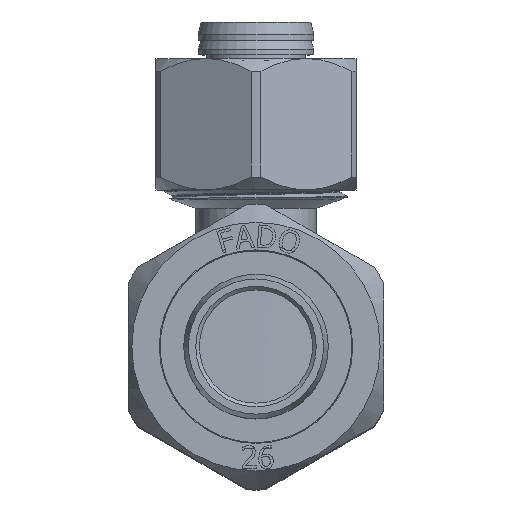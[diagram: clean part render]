
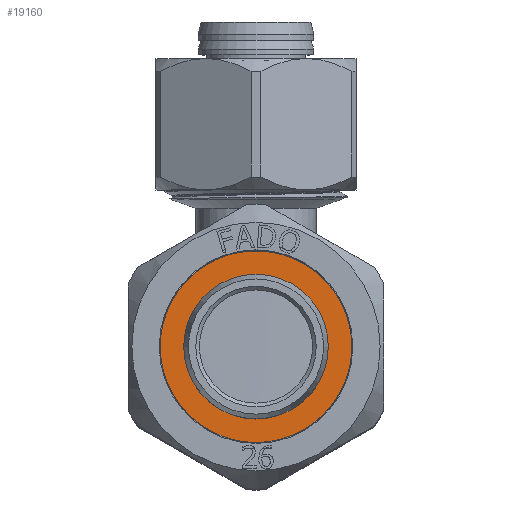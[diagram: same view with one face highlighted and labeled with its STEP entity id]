
A CAD part, top view. The second image highlights one B-rep face of the part: STEP entity #19160.
In plain terms, the highlighted planar face has unit normal (0, 0, 1) as drawn and (0, 0, -1) by its records, which use the part's own axes.
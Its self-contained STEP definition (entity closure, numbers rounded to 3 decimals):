
#310=FACE_BOUND('',#4698,.T.);
#2342=PLANE('',#20309);
#3543=FACE_OUTER_BOUND('',#4697,.T.);
#4697=EDGE_LOOP('',(#17949,#17950));
#4698=EDGE_LOOP('',(#17951,#17952));
#7412=CIRCLE('',#20307,9.9);
#7413=CIRCLE('',#20308,9.9);
#7414=CIRCLE('',#20310,13.25);
#7415=CIRCLE('',#20311,13.25);
#9363=VERTEX_POINT('',#63862);
#9364=VERTEX_POINT('',#63863);
#9365=VERTEX_POINT('',#63868);
#9366=VERTEX_POINT('',#63869);
#12236=EDGE_CURVE('',#9363,#9364,#7412,.T.);
#12237=EDGE_CURVE('',#9364,#9363,#7413,.T.);
#12239=EDGE_CURVE('',#9365,#9366,#7414,.T.);
#12240=EDGE_CURVE('',#9366,#9365,#7415,.T.);
#17949=ORIENTED_EDGE('',*,*,#12239,.F.);
#17950=ORIENTED_EDGE('',*,*,#12240,.F.);
#17951=ORIENTED_EDGE('',*,*,#12236,.T.);
#17952=ORIENTED_EDGE('',*,*,#12237,.T.);
#19160=ADVANCED_FACE('',(#3543,#310),#2342,.T.);
#20307=AXIS2_PLACEMENT_3D('',#63864,#23456,#23457);
#20308=AXIS2_PLACEMENT_3D('',#63865,#23458,#23459);
#20309=AXIS2_PLACEMENT_3D('',#63867,#23461,#23462);
#20310=AXIS2_PLACEMENT_3D('',#63870,#23463,#23464);
#20311=AXIS2_PLACEMENT_3D('',#63871,#23465,#23466);
#23456=DIRECTION('center_axis',(0.,0.,1.));
#23457=DIRECTION('ref_axis',(1.,0.,0.));
#23458=DIRECTION('center_axis',(0.,0.,1.));
#23459=DIRECTION('ref_axis',(1.,0.,0.));
#23461=DIRECTION('center_axis',(0.,0.,-1.));
#23462=DIRECTION('ref_axis',(-1.,0.,0.));
#23463=DIRECTION('center_axis',(0.,0.,1.));
#23464=DIRECTION('ref_axis',(1.,0.,0.));
#23465=DIRECTION('center_axis',(0.,0.,1.));
#23466=DIRECTION('ref_axis',(1.,0.,0.));
#63862=CARTESIAN_POINT('',(0.,-9.9,-10.087));
#63863=CARTESIAN_POINT('',(0.,9.9,-10.087));
#63864=CARTESIAN_POINT('Origin',(0.,0.,-10.087));
#63865=CARTESIAN_POINT('Origin',(0.,0.,-10.087));
#63867=CARTESIAN_POINT('Origin',(0.,-13.25,-10.087));
#63868=CARTESIAN_POINT('',(0.,-13.25,-10.087));
#63869=CARTESIAN_POINT('',(0.,13.25,-10.087));
#63870=CARTESIAN_POINT('Origin',(0.,0.,-10.087));
#63871=CARTESIAN_POINT('Origin',(0.,0.,-10.087));
